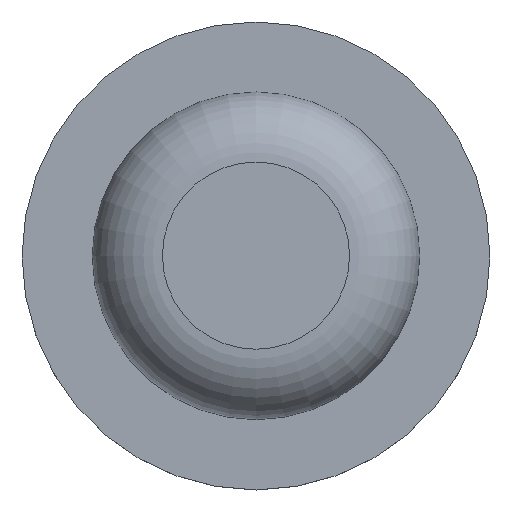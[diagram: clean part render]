
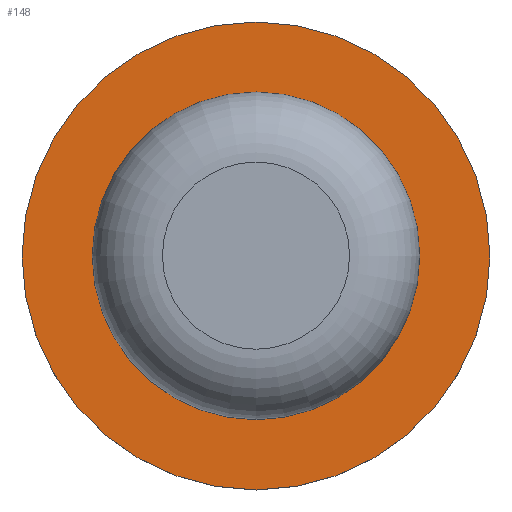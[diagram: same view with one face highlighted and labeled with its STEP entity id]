
A CAD part, top view. The second image highlights one B-rep face of the part: STEP entity #148.
In plain terms, the highlighted planar face has unit normal (0, 0, 1).
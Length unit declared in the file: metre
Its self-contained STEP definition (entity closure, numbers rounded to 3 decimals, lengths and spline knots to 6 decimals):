
#39=ORIENTED_EDGE('',*,*,#73,.F.);
#40=ORIENTED_EDGE('',*,*,#74,.T.);
#73=EDGE_CURVE('',#90,#90,#103,.T.);
#74=EDGE_CURVE('',#91,#91,#104,.T.);
#90=VERTEX_POINT('',#237);
#91=VERTEX_POINT('',#239);
#103=CIRCLE('',#173,0.0035);
#104=CIRCLE('',#174,0.005);
#108=EDGE_LOOP('',(#39));
#109=EDGE_LOOP('',(#40));
#124=FACE_BOUND('',#108,.T.);
#125=FACE_BOUND('',#109,.T.);
#140=PLANE('',#172);
#148=ADVANCED_FACE('',(#124,#125),#140,.T.);
#172=AXIS2_PLACEMENT_3D('',#235,#190,#191);
#173=AXIS2_PLACEMENT_3D('',#236,#192,#193);
#174=AXIS2_PLACEMENT_3D('',#238,#194,#195);
#190=DIRECTION('',(0.,0.,1.));
#191=DIRECTION('',(1.,0.,0.));
#192=DIRECTION('',(0.,0.,1.));
#193=DIRECTION('',(1.,0.,0.));
#194=DIRECTION('',(0.,0.,1.));
#195=DIRECTION('',(1.,0.,0.));
#235=CARTESIAN_POINT('',(0.,0.,0.001));
#236=CARTESIAN_POINT('',(0.,0.,0.001));
#237=CARTESIAN_POINT('',(0.0035,0.,0.001));
#238=CARTESIAN_POINT('',(0.,0.,0.001));
#239=CARTESIAN_POINT('',(0.005,0.,0.001));
